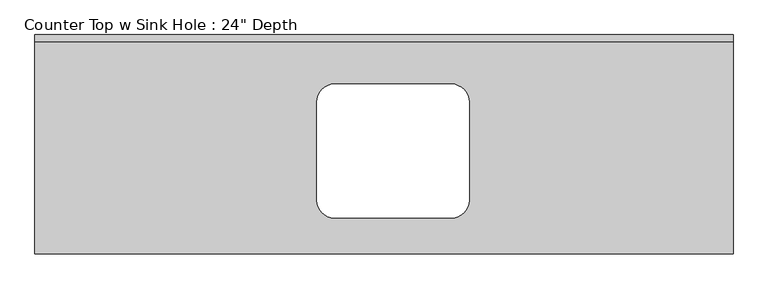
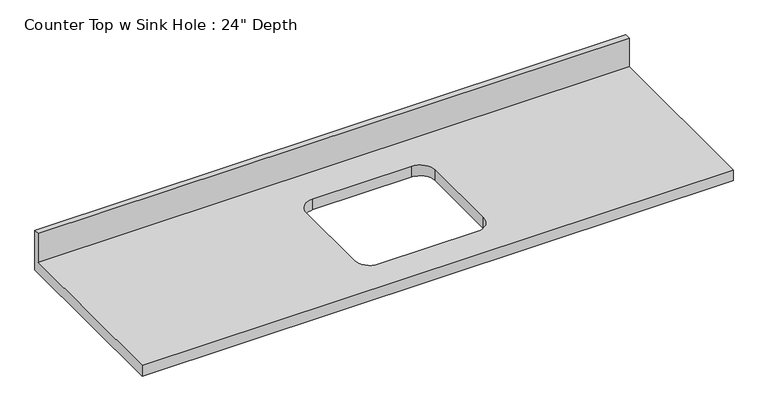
"""IFC4 building model written with IfcOpenShell, lengths in millimetres: furniture geometry."""

from ifc_helpers import new_model, si_unit, frame, origin, place, context, project, spatial, polyline, circle_curve, source, transform, mapped, element, save
from ifc_brep_helpers import plane_surface, revolved_surface, advanced_brep


def furniture_b11095bc(model_context):
    return source(origin(), model_context, "Body", "AdvancedBrep", [
        advanced_brep(
        [(-1200.4622951, -622.3, 914.4), (780.7377049, -622.3, 914.4), (780.7377049, -19.05, 914.4), (-1200.4622951, -19.05, 914.4), (-349.5622951, -139.7, 914.4), (-19.3622951, -139.7, 914.4), (31.4377049, -190.5, 914.4), (31.4377049, -469.9, 914.4), (-19.3622951, -520.7, 914.4), (-349.5622951, -520.7, 914.4), (-400.3622951, -469.9, 914.4), (-400.3622951, -190.5, 914.4), (780.7377049, 0.0, 876.3), (780.7377049, -622.3, 876.3), (-1200.4622951, -622.3, 876.3), (-1200.4622951, 0.0, 876.3), (-19.3622951, -139.7, 876.3), (-349.5622951, -139.7, 876.3), (-400.3622951, -190.5, 876.3), (-400.3622951, -469.9, 876.3), (-349.5622951, -520.7, 876.3), (-19.3622951, -520.7, 876.3), (31.4377049, -469.9, 876.3), (31.4377049, -190.5, 876.3), (-1200.4622951, 0.0, 1016.0), (780.7377049, 0.0, 1016.0), (-1200.4622951, -19.05, 1016.0), (780.7377049, -19.05, 1016.0)],
        [
            (0, 1),
            (1, 2),
            (2, 3),
            (3, 0),
            (4, 5),
            (5, 6, circle_curve(frame((-19.3622951, -190.5, 914.4), z_axis=(0.0, 0.0, -1.0), x_axis=(1.0, 0.0, 0.0)), 50.8)),
            (6, 7),
            (7, 8, circle_curve(frame((-19.3622951, -469.9, 914.4), z_axis=(0.0, 0.0, -1.0), x_axis=(1.0, 0.0, 0.0)), 50.8)),
            (8, 9),
            (9, 10, circle_curve(frame((-349.5622951, -469.9, 914.4), z_axis=(0.0, 0.0, -1.0), x_axis=(1.0, 0.0, 0.0)), 50.8)),
            (10, 11),
            (11, 4, circle_curve(frame((-349.5622951, -190.5, 914.4), z_axis=(0.0, 0.0, -1.0), x_axis=(1.0, 0.0, 0.0)), 50.8)),
            (12, 13),
            (13, 14),
            (14, 15),
            (15, 12),
            (16, 17),
            (17, 18, circle_curve(frame((-349.5622951, -190.5, 876.3), z_axis=(0.0, 0.0, 1.0), x_axis=(1.0, 0.0, 0.0)), 50.8)),
            (18, 19),
            (19, 20, circle_curve(frame((-349.5622951, -469.9, 876.3), z_axis=(0.0, 0.0, 1.0), x_axis=(1.0, 0.0, 0.0)), 50.8)),
            (20, 21),
            (21, 22, circle_curve(frame((-19.3622951, -469.9, 876.3), z_axis=(0.0, 0.0, 1.0), x_axis=(1.0, 0.0, 0.0)), 50.8)),
            (22, 23),
            (23, 16, circle_curve(frame((-19.3622951, -190.5, 876.3), z_axis=(0.0, 0.0, 1.0), x_axis=(1.0, 0.0, 0.0)), 50.8)),
            (15, 24),
            (24, 25),
            (25, 12),
            (14, 0),
            (3, 26),
            (26, 24),
            (13, 1),
            (25, 27),
            (27, 2),
            (4, 17),
            (16, 5),
            (11, 18),
            (10, 19),
            (9, 20),
            (8, 21),
            (7, 22),
            (6, 23),
            (26, 27),
        ],
        [
            plane_surface(frame((-1200.4622951, 0.0, 914.4), z_axis=(0.0, 0.0, 1.0), x_axis=(-1.0, 0.0, 0.0))),
            plane_surface(frame((-1200.4622951, 0.0, 876.3), z_axis=(0.0, 0.0, -1.0), x_axis=(1.0, 0.0, 0.0))),
            plane_surface(frame((780.7377049, 0.0, 914.4), z_axis=(0.0, 1.0, 0.0), x_axis=(0.0, 0.0, -1.0))),
            plane_surface(frame((-1200.4622951, 0.0, 914.4), z_axis=(-1.0, 0.0, 0.0), x_axis=(0.0, 0.0, -1.0))),
            plane_surface(frame((-1200.4622951, -622.3, 914.4), z_axis=(0.0, -1.0, 0.0), x_axis=(0.0, 0.0, -1.0))),
            plane_surface(frame((780.7377049, -622.3, 914.4), z_axis=(1.0, 0.0, 0.0), x_axis=(0.0, 0.0, -1.0))),
            plane_surface(frame((-19.3622951, -139.7, 914.4), z_axis=(0.0, -1.0, 0.0), x_axis=(0.0, 0.0, -1.0))),
            revolved_surface(polyline([(-298.76229509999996, -190.5, 914.4), (-298.76229509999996, -190.5, 876.3)]), (-349.5622951, -190.5, 876.3), (0.0, 0.0, 1.0)),
            plane_surface(frame((-400.3622951, -190.5, 914.4), z_axis=(1.0, 0.0, 0.0), x_axis=(0.0, 0.0, -1.0))),
            revolved_surface(polyline([(-298.76229509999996, -469.9, 914.4), (-298.76229509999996, -469.9, 876.3)]), (-349.5622951, -469.9, 876.3), (0.0, 0.0, 1.0)),
            plane_surface(frame((-349.5622951, -520.7, 914.4), z_axis=(0.0, 1.0, 0.0), x_axis=(0.0, 0.0, -1.0))),
            revolved_surface(polyline([(31.437704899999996, -469.9, 914.4), (31.437704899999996, -469.9, 876.3)]), (-19.3622951, -469.9, 876.3), (0.0, 0.0, 1.0)),
            plane_surface(frame((31.4377049, -469.9, 914.4), z_axis=(-1.0, 0.0, 0.0), x_axis=(0.0, 0.0, -1.0))),
            revolved_surface(polyline([(31.437704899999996, -190.5, 914.4), (31.437704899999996, -190.5, 876.3)]), (-19.3622951, -190.5, 876.3), (0.0, 0.0, 1.0)),
            plane_surface(frame((-1200.4622951, 0.0, 1016.0), z_axis=(0.0, 0.0, 1.0), x_axis=(0.0, -1.0, 0.0))),
            plane_surface(frame((-1200.4622951, -19.05, 1016.0), z_axis=(0.0, -1.0, 0.0), x_axis=(0.0, 0.0, -1.0))),
        ],
        [
            (0, [[1, 2, 3, 4], [5, 6, 7, 8, 9, 10, 11, 12]]),
            (1, [[13, 14, 15, 16], [17, 18, 19, 20, 21, 22, 23, 24]]),
            (2, [[-16, 25, 26, 27]]),
            (3, [[-15, 28, -4, 29, 30, -25]]),
            (4, [[-1, -28, -14, 31]]),
            (5, [[-13, -27, 32, 33, -2, -31]]),
            (6, [[34, -17, 35, -5]]),
            (7, [[-34, -12, 36, -18]]),
            (8, [[-36, -11, 37, -19]]),
            (9, [[-37, -10, 38, -20]]),
            (10, [[-38, -9, 39, -21]]),
            (11, [[-39, -8, 40, -22]]),
            (12, [[-40, -7, 41, -23]]),
            (13, [[-35, -24, -41, -6]]),
            (14, [[-30, 42, -32, -26]]),
            (15, [[-42, -29, -3, -33]]),
        ],
    ),
    ])


if __name__ == "__main__":
    model = new_model("IFC4")
    model_context = context("Model", 3, world=origin())
    ifc_project = project(units=[si_unit("LENGTHUNIT", "METRE", prefix="MILLI")], contexts=[model_context])
    site = spatial("IfcSite", under=ifc_project)
    building = spatial("IfcBuilding", under=site)
    placement = place(None, origin())
    furniture_shape = furniture_b11095bc(model_context)
    element("IfcFurniture", 1, ObjectType="Counter Top w Sink Hole : 24\" Depth", at=placement, inside=building, context=model_context, shape_type="MappedRepresentation", body=[
        mapped(furniture_shape, transform((0.0, 0.0, 0.0), x_axis=(1.0, 0.0, 0.0), y_axis=(0.0, 1.0, 0.0), z_axis=(0.0, 0.0, 1.0))),
    ])
    save(model, "model.ifc")
